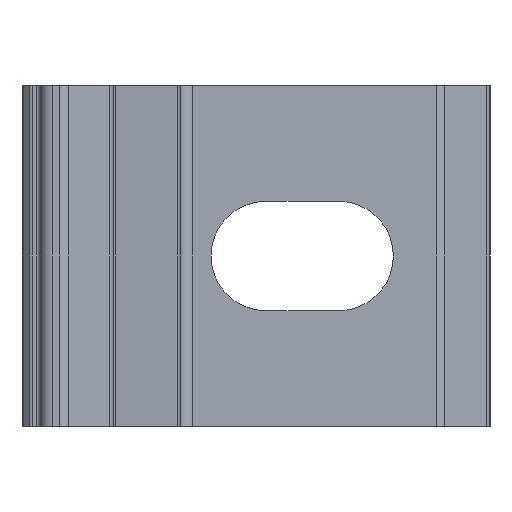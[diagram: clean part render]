
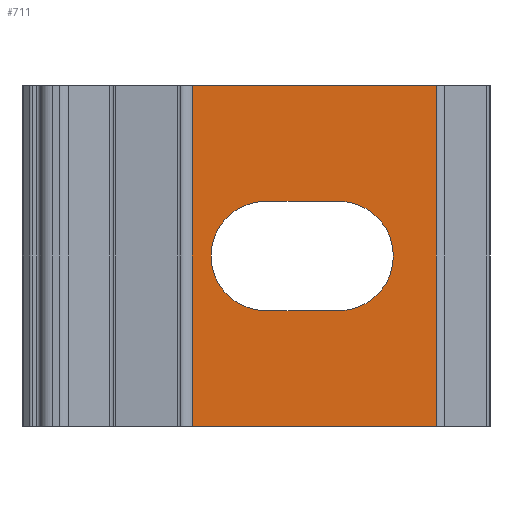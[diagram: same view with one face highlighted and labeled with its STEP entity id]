
A CAD part, front view. The second image highlights one B-rep face of the part: STEP entity #711.
In plain terms, the highlighted planar face has unit normal (0, -1, 0).
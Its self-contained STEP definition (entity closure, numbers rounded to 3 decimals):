
#17 = FACE_BOUND ( 'NONE', #260, .T. ) ;
#52 = CARTESIAN_POINT ( 'NONE',  ( 90.233, 184.743, 0. ) ) ;
#55 = ORIENTED_EDGE ( 'NONE', *, *, #1250, .T. ) ;
#115 = EDGE_CURVE ( 'NONE', #1498, #960, #869, .T. ) ;
#156 = CIRCLE ( 'NONE', #1470, 4.5 ) ;
#167 = VECTOR ( 'NONE', #540, 1000. ) ;
#217 = LINE ( 'NONE', #314, #167 ) ;
#221 = EDGE_CURVE ( 'NONE', #395, #1310, #217, .T. ) ;
#230 = CARTESIAN_POINT ( 'NONE',  ( 90.233, 184.743, 28. ) ) ;
#241 = DIRECTION ( 'NONE',  ( -1., 0., 0. ) ) ;
#255 = CARTESIAN_POINT ( 'NONE',  ( 90.233, 184.743, 28. ) ) ;
#260 = EDGE_LOOP ( 'NONE', ( #717, #1513, #1138, #1388, #55 ) ) ;
#264 = ORIENTED_EDGE ( 'NONE', *, *, #1052, .T. ) ;
#277 = DIRECTION ( 'NONE',  ( -1., 0., 0. ) ) ;
#307 = CIRCLE ( 'NONE', #701, 4.5 ) ;
#314 = CARTESIAN_POINT ( 'NONE',  ( 90.233, 184.743, 18.5 ) ) ;
#321 = EDGE_LOOP ( 'NONE', ( #1238, #776, #334, #264 ) ) ;
#334 = ORIENTED_EDGE ( 'NONE', *, *, #1221, .F. ) ;
#357 = DIRECTION ( 'NONE',  ( 0., 1., 0. ) ) ;
#372 = DIRECTION ( 'NONE',  ( 1., 0., 0. ) ) ;
#390 = EDGE_CURVE ( 'NONE', #1112, #960, #966, .T. ) ;
#395 = VERTEX_POINT ( 'NONE', #1520 ) ;
#411 = DIRECTION ( 'NONE',  ( 0., 1., 0. ) ) ;
#439 = DIRECTION ( 'NONE',  ( 0., 0., -1. ) ) ;
#460 = PLANE ( 'NONE',  #1283 ) ;
#470 = CARTESIAN_POINT ( 'NONE',  ( 110.319, 184.743, 28. ) ) ;
#479 = LINE ( 'NONE', #673, #1021 ) ;
#509 = VECTOR ( 'NONE', #372, 1000. ) ;
#517 = AXIS2_PLACEMENT_3D ( 'NONE', #861, #1207, #1215 ) ;
#525 = VERTEX_POINT ( 'NONE', #1070 ) ;
#540 = DIRECTION ( 'NONE',  ( 1., 0., 0. ) ) ;
#579 = LINE ( 'NONE', #1288, #1334 ) ;
#591 = VECTOR ( 'NONE', #1353, 1000. ) ;
#652 = CARTESIAN_POINT ( 'NONE',  ( 102.283, 184.743, 14. ) ) ;
#673 = CARTESIAN_POINT ( 'NONE',  ( 90.233, 184.743, 28. ) ) ;
#674 = LINE ( 'NONE', #230, #509 ) ;
#696 = DIRECTION ( 'NONE',  ( 0., 0., -1. ) ) ;
#701 = AXIS2_PLACEMENT_3D ( 'NONE', #938, #1531, #1067 ) ;
#703 = VERTEX_POINT ( 'NONE', #1003 ) ;
#711 = ADVANCED_FACE ( 'NONE', ( #17, #948 ), #460, .F. ) ;
#717 = ORIENTED_EDGE ( 'NONE', *, *, #221, .T. ) ;
#776 = ORIENTED_EDGE ( 'NONE', *, *, #390, .F. ) ;
#778 = VERTEX_POINT ( 'NONE', #255 ) ;
#861 = CARTESIAN_POINT ( 'NONE',  ( 96.283, 184.743, 14. ) ) ;
#869 = LINE ( 'NONE', #889, #591 ) ;
#889 = CARTESIAN_POINT ( 'NONE',  ( 90.233, 184.743, 0. ) ) ;
#923 = CARTESIAN_POINT ( 'NONE',  ( 91.783, 184.743, 14. ) ) ;
#934 = EDGE_CURVE ( 'NONE', #1310, #525, #156, .T. ) ;
#938 = CARTESIAN_POINT ( 'NONE',  ( 96.283, 184.743, 14. ) ) ;
#948 = FACE_OUTER_BOUND ( 'NONE', #321, .T. ) ;
#960 = VERTEX_POINT ( 'NONE', #1133 ) ;
#966 = LINE ( 'NONE', #1038, #1095 ) ;
#1003 = CARTESIAN_POINT ( 'NONE',  ( 96.283, 184.743, 9.5 ) ) ;
#1021 = VECTOR ( 'NONE', #439, 1000. ) ;
#1038 = CARTESIAN_POINT ( 'NONE',  ( 110.319, 184.743, 28. ) ) ;
#1052 = EDGE_CURVE ( 'NONE', #778, #1498, #479, .T. ) ;
#1067 = DIRECTION ( 'NONE',  ( -1., 0., 0. ) ) ;
#1070 = CARTESIAN_POINT ( 'NONE',  ( 102.283, 184.743, 9.5 ) ) ;
#1088 = VERTEX_POINT ( 'NONE', #923 ) ;
#1095 = VECTOR ( 'NONE', #696, 1000. ) ;
#1112 = VERTEX_POINT ( 'NONE', #470 ) ;
#1131 = CIRCLE ( 'NONE', #517, 4.5 ) ;
#1133 = CARTESIAN_POINT ( 'NONE',  ( 110.319, 184.743, 0. ) ) ;
#1138 = ORIENTED_EDGE ( 'NONE', *, *, #1301, .T. ) ;
#1207 = DIRECTION ( 'NONE',  ( 0., 1., 0. ) ) ;
#1215 = DIRECTION ( 'NONE',  ( -1., 0., 0. ) ) ;
#1221 = EDGE_CURVE ( 'NONE', #778, #1112, #674, .T. ) ;
#1238 = ORIENTED_EDGE ( 'NONE', *, *, #115, .T. ) ;
#1250 = EDGE_CURVE ( 'NONE', #1088, #395, #307, .T. ) ;
#1283 = AXIS2_PLACEMENT_3D ( 'NONE', #1407, #357, #241 ) ;
#1288 = CARTESIAN_POINT ( 'NONE',  ( 90.233, 184.743, 9.5 ) ) ;
#1294 = CARTESIAN_POINT ( 'NONE',  ( 102.283, 184.743, 18.5 ) ) ;
#1301 = EDGE_CURVE ( 'NONE', #525, #703, #579, .T. ) ;
#1310 = VERTEX_POINT ( 'NONE', #1294 ) ;
#1329 = EDGE_CURVE ( 'NONE', #703, #1088, #1131, .T. ) ;
#1334 = VECTOR ( 'NONE', #1408, 1000. ) ;
#1353 = DIRECTION ( 'NONE',  ( 1., 0., 0. ) ) ;
#1388 = ORIENTED_EDGE ( 'NONE', *, *, #1329, .T. ) ;
#1407 = CARTESIAN_POINT ( 'NONE',  ( 90.233, 184.743, 28. ) ) ;
#1408 = DIRECTION ( 'NONE',  ( -1., 0., 0. ) ) ;
#1470 = AXIS2_PLACEMENT_3D ( 'NONE', #652, #411, #277 ) ;
#1498 = VERTEX_POINT ( 'NONE', #52 ) ;
#1513 = ORIENTED_EDGE ( 'NONE', *, *, #934, .T. ) ;
#1520 = CARTESIAN_POINT ( 'NONE',  ( 96.283, 184.743, 18.5 ) ) ;
#1531 = DIRECTION ( 'NONE',  ( 0., 1., 0. ) ) ;
